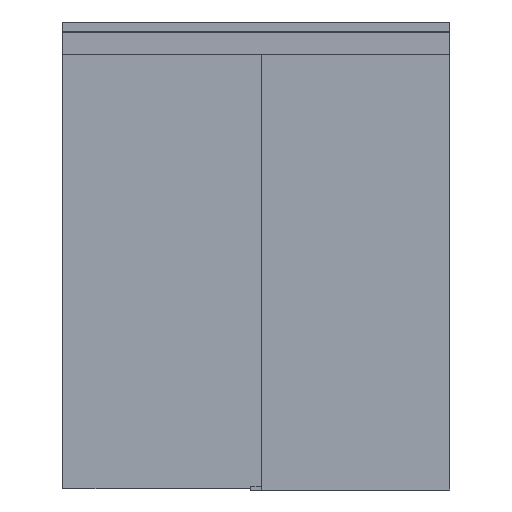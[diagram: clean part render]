
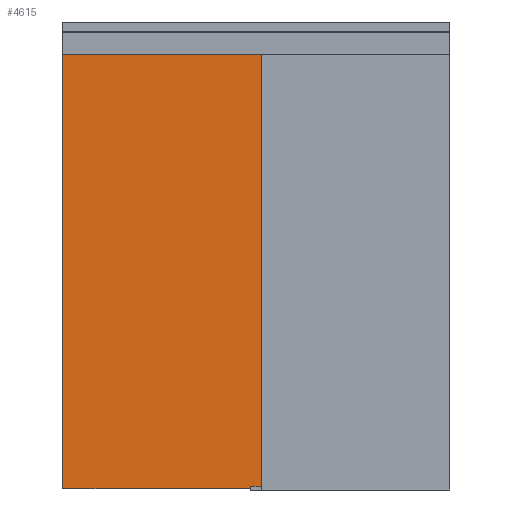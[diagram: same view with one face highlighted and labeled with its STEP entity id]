
A CAD part, front view. The second image highlights one B-rep face of the part: STEP entity #4615.
In plain terms, the highlighted planar face has unit normal (0, -1, 0).
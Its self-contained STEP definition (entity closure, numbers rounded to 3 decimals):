
#4615=ADVANCED_FACE('',(#9395,#9396,#9397,#9398,#9399),#9400,.F.);
#9395=FACE_OUTER_BOUND('',#14226,.T.);
#9396=FACE_BOUND('',#14227,.T.);
#9397=FACE_BOUND('',#14228,.T.);
#9398=FACE_BOUND('',#14229,.T.);
#9399=FACE_BOUND('',#14230,.T.);
#9400=PLANE('',#14231);
#14226=EDGE_LOOP('',(#27292,#27293,#27294,#27295,#27296,#27297,#27298,#27299,#27300,#27301,#27302,#27303));
#14227=EDGE_LOOP('',(#27304,#27305));
#14228=EDGE_LOOP('',(#27306,#27307));
#14229=EDGE_LOOP('',(#27308,#27309));
#14230=EDGE_LOOP('',(#27310,#27311));
#14231=AXIS2_PLACEMENT_3D('',#27312,#27313,#27314);
#27292=ORIENTED_EDGE('',*,*,#33816,.T.);
#27293=ORIENTED_EDGE('',*,*,#33825,.T.);
#27294=ORIENTED_EDGE('',*,*,#33821,.T.);
#27295=ORIENTED_EDGE('',*,*,#33851,.F.);
#27296=ORIENTED_EDGE('',*,*,#33832,.T.);
#27297=ORIENTED_EDGE('',*,*,#33841,.T.);
#27298=ORIENTED_EDGE('',*,*,#33837,.T.);
#27299=ORIENTED_EDGE('',*,*,#33848,.F.);
#27300=ORIENTED_EDGE('',*,*,#33857,.F.);
#27301=ORIENTED_EDGE('',*,*,#33858,.F.);
#27302=ORIENTED_EDGE('',*,*,#33859,.F.);
#27303=ORIENTED_EDGE('',*,*,#33853,.F.);
#27304=ORIENTED_EDGE('',*,*,#33843,.T.);
#27305=ORIENTED_EDGE('',*,*,#33791,.T.);
#27306=ORIENTED_EDGE('',*,*,#33827,.T.);
#27307=ORIENTED_EDGE('',*,*,#33796,.T.);
#27308=ORIENTED_EDGE('',*,*,#33811,.T.);
#27309=ORIENTED_EDGE('',*,*,#33801,.T.);
#27310=ORIENTED_EDGE('',*,*,#33808,.T.);
#27311=ORIENTED_EDGE('',*,*,#33806,.T.);
#27312=CARTESIAN_POINT('',(302.0,-5.,1925.));
#27313=DIRECTION('',(0.,1.0,0.));
#27314=DIRECTION('',(0.0,0.,1.0));
#33791=EDGE_CURVE('',#41672,#41676,#41678,.T.);
#33796=EDGE_CURVE('',#41681,#41685,#41687,.T.);
#33801=EDGE_CURVE('',#41690,#41694,#41696,.T.);
#33806=EDGE_CURVE('',#41699,#41703,#41705,.T.);
#33808=EDGE_CURVE('',#41703,#41699,#41707,.T.);
#33811=EDGE_CURVE('',#41694,#41690,#41710,.T.);
#33816=EDGE_CURVE('',#41718,#41716,#41719,.T.);
#33821=EDGE_CURVE('',#41727,#41725,#41728,.T.);
#33825=EDGE_CURVE('',#41716,#41727,#41732,.T.);
#33827=EDGE_CURVE('',#41685,#41681,#41734,.T.);
#33832=EDGE_CURVE('',#41742,#41740,#41743,.T.);
#33837=EDGE_CURVE('',#41751,#41749,#41752,.T.);
#33841=EDGE_CURVE('',#41740,#41751,#41756,.T.);
#33843=EDGE_CURVE('',#41676,#41672,#41758,.T.);
#33848=EDGE_CURVE('',#41763,#41749,#41765,.T.);
#33851=EDGE_CURVE('',#41742,#41725,#41768,.T.);
#33853=EDGE_CURVE('',#41718,#41770,#41771,.T.);
#33857=EDGE_CURVE('',#41776,#41763,#41777,.T.);
#33858=EDGE_CURVE('',#41778,#41776,#41779,.T.);
#33859=EDGE_CURVE('',#41770,#41778,#41780,.T.);
#41672=VERTEX_POINT('',#52849);
#41676=VERTEX_POINT('',#52854);
#41678=CIRCLE('',#52857,6.5);
#41681=VERTEX_POINT('',#52860);
#41685=VERTEX_POINT('',#52865);
#41687=CIRCLE('',#52868,6.5);
#41690=VERTEX_POINT('',#52871);
#41694=VERTEX_POINT('',#52876);
#41696=CIRCLE('',#52879,6.5);
#41699=VERTEX_POINT('',#52882);
#41703=VERTEX_POINT('',#52887);
#41705=CIRCLE('',#52890,6.5);
#41707=CIRCLE('',#52892,6.5);
#41710=CIRCLE('',#52895,6.5);
#41716=VERTEX_POINT('',#52902);
#41718=VERTEX_POINT('',#52905);
#41719=LINE('',#52906,#52907);
#41725=VERTEX_POINT('',#52915);
#41727=VERTEX_POINT('',#52918);
#41728=LINE('',#52919,#52920);
#41732=LINE('',#52926,#52927);
#41734=CIRCLE('',#52929,6.5);
#41740=VERTEX_POINT('',#52936);
#41742=VERTEX_POINT('',#52939);
#41743=LINE('',#52940,#52941);
#41749=VERTEX_POINT('',#52949);
#41751=VERTEX_POINT('',#52952);
#41752=LINE('',#52953,#52954);
#41756=LINE('',#52960,#52961);
#41758=CIRCLE('',#52963,6.5);
#41763=VERTEX_POINT('',#52969);
#41765=LINE('',#52972,#52973);
#41768=LINE('',#52977,#52978);
#41770=VERTEX_POINT('',#52980);
#41771=LINE('',#52981,#52982);
#41776=VERTEX_POINT('',#52989);
#41777=LINE('',#52990,#52991);
#41778=VERTEX_POINT('',#52992);
#41779=LINE('',#52993,#52994);
#41780=LINE('',#52995,#52996);
#52849=CARTESIAN_POINT('',(70.5,-5.,2273.));
#52854=CARTESIAN_POINT('',(83.5,-5.,2273.));
#52857=AXIS2_PLACEMENT_3D('',#59937,#59938,#59939);
#52860=CARTESIAN_POINT('',(868.5,-5.,2273.));
#52865=CARTESIAN_POINT('',(881.5,-5.,2273.));
#52868=AXIS2_PLACEMENT_3D('',#59945,#59946,#59947);
#52871=CARTESIAN_POINT('',(948.5,-5.,2273.));
#52876=CARTESIAN_POINT('',(961.5,-5.,2273.));
#52879=AXIS2_PLACEMENT_3D('',#59953,#59954,#59955);
#52882=CARTESIAN_POINT('',(150.5,-5.,2273.));
#52887=CARTESIAN_POINT('',(163.5,-5.,2273.));
#52890=AXIS2_PLACEMENT_3D('',#59961,#59962,#59963);
#52892=AXIS2_PLACEMENT_3D('',#59964,#59965,#59966);
#52895=AXIS2_PLACEMENT_3D('',#59970,#59971,#59972);
#52902=CARTESIAN_POINT('',(936.0,-5.,2279.));
#52905=CARTESIAN_POINT('',(936.0,-5.,2293.));
#52906=CARTESIAN_POINT('',(936.0,-5.,2117.5));
#52907=VECTOR('',#59978,1.0);
#52915=CARTESIAN_POINT('',(894.0,-5.,2293.));
#52918=CARTESIAN_POINT('',(894.0,-5.,2279.));
#52919=CARTESIAN_POINT('',(894.0,-5.,2110.5));
#52920=VECTOR('',#59982,1.0);
#52926=CARTESIAN_POINT('',(619.0,-5.,2279.));
#52927=VECTOR('',#59985,1.0);
#52929=AXIS2_PLACEMENT_3D('',#59986,#59987,#59988);
#52936=CARTESIAN_POINT('',(138.0,-5.,2279.));
#52939=CARTESIAN_POINT('',(138.0,-5.,2293.));
#52940=CARTESIAN_POINT('',(138.0,-5.,2117.5));
#52941=VECTOR('',#59994,1.0);
#52949=CARTESIAN_POINT('',(96.,-5.,2293.));
#52952=CARTESIAN_POINT('',(96.,-5.,2279.));
#52953=CARTESIAN_POINT('',(96.0,-5.,2110.5));
#52954=VECTOR('',#59998,1.0);
#52960=CARTESIAN_POINT('',(220.0,-5.,2279.));
#52961=VECTOR('',#60001,1.0);
#52963=AXIS2_PLACEMENT_3D('',#60002,#60003,#60004);
#52969=CARTESIAN_POINT('',(2.,-5.,2293.));
#52972=CARTESIAN_POINT('',(2.,-5.,2293.));
#52973=VECTOR('',#60010,600.0);
#52977=CARTESIAN_POINT('',(2.,-5.,2293.));
#52978=VECTOR('',#60012,600.0);
#52980=CARTESIAN_POINT('',(1030.0,-5.,2293.));
#52981=CARTESIAN_POINT('',(2.,-5.,2293.));
#52982=VECTOR('',#60013,600.0);
#52989=CARTESIAN_POINT('',(2.,-5.,7.));
#52990=CARTESIAN_POINT('',(2.,-5.,1535.));
#52991=VECTOR('',#60016,780.);
#52992=CARTESIAN_POINT('',(1030.0,-5.,7.0));
#52993=CARTESIAN_POINT('',(602.0,-5.,7.0));
#52994=VECTOR('',#60017,600.0);
#52995=CARTESIAN_POINT('',(1030.0,-5.,2315.));
#52996=VECTOR('',#60018,780.);
#59937=CARTESIAN_POINT('',(77.,-5.,2273.));
#59938=DIRECTION('',(0.0,1.0,0.));
#59939=DIRECTION('',(-1.0,0.,0.));
#59945=CARTESIAN_POINT('',(875.0,-5.,2273.));
#59946=DIRECTION('',(0.0,1.0,0.));
#59947=DIRECTION('',(-1.0,0.,0.));
#59953=CARTESIAN_POINT('',(955.0,-5.,2273.));
#59954=DIRECTION('',(0.0,1.0,0.));
#59955=DIRECTION('',(-1.0,0.,0.));
#59961=CARTESIAN_POINT('',(157.0,-5.,2273.));
#59962=DIRECTION('',(0.0,1.0,0.));
#59963=DIRECTION('',(-1.0,0.,0.));
#59964=CARTESIAN_POINT('',(157.0,-5.,2273.));
#59965=DIRECTION('',(0.0,1.0,0.));
#59966=DIRECTION('',(-1.0,0.,0.));
#59970=CARTESIAN_POINT('',(955.0,-5.,2273.));
#59971=DIRECTION('',(0.0,1.0,0.));
#59972=DIRECTION('',(-1.0,0.,0.));
#59978=DIRECTION('',(0.0,0.,-1.0));
#59982=DIRECTION('',(0.0,0.,1.0));
#59985=DIRECTION('',(-1.0,0.,0.0));
#59986=CARTESIAN_POINT('',(875.0,-5.,2273.));
#59987=DIRECTION('',(0.0,1.0,0.));
#59988=DIRECTION('',(-1.0,0.,0.));
#59994=DIRECTION('',(0.0,0.,-1.0));
#59998=DIRECTION('',(0.0,0.,1.0));
#60001=DIRECTION('',(-1.0,0.,0.0));
#60002=CARTESIAN_POINT('',(77.,-5.,2273.));
#60003=DIRECTION('',(0.0,1.0,0.));
#60004=DIRECTION('',(-1.0,0.,0.));
#60010=DIRECTION('',(1.0,0.,0.));
#60012=DIRECTION('',(1.0,0.,0.));
#60013=DIRECTION('',(1.0,0.,0.));
#60016=DIRECTION('',(0.0,0.,1.0));
#60017=DIRECTION('',(-1.0,0.,0.));
#60018=DIRECTION('',(0.0,0.,-1.0));
